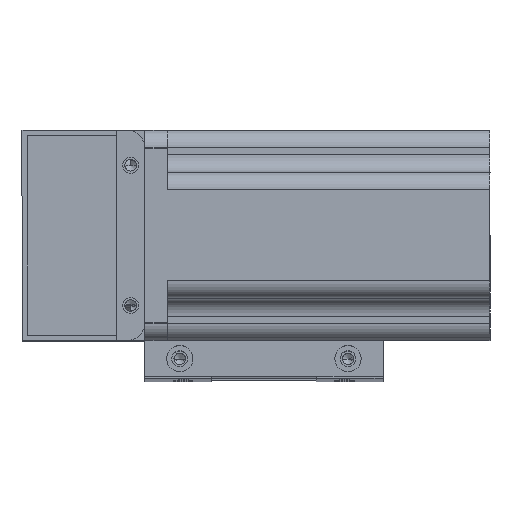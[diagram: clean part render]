
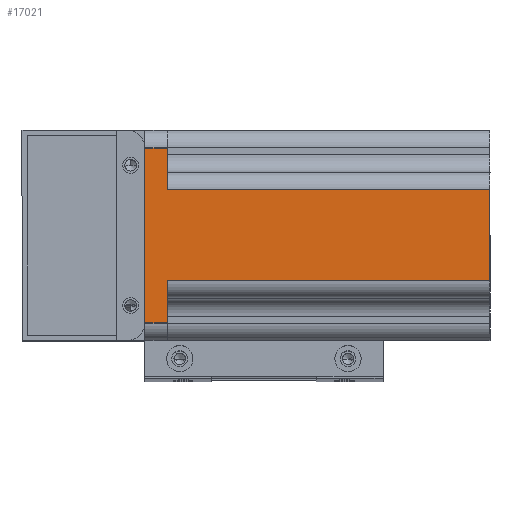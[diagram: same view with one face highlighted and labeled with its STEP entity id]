
A CAD part, top view. The second image highlights one B-rep face of the part: STEP entity #17021.
In plain terms, the highlighted planar face has unit normal (0, 0, 1) as drawn and (-1, 0, 0) by its records, which use the part's own axes.
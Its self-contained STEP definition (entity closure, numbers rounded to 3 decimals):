
#560 = CARTESIAN_POINT ( 'NONE',  ( -30., 13., 0. ) ) ;
#1712 = ORIENTED_EDGE ( 'NONE', *, *, #14572, .F. ) ;
#1823 = ORIENTED_EDGE ( 'NONE', *, *, #12443, .T. ) ;
#1884 = EDGE_CURVE ( 'NONE', #13013, #25245, #14892, .T. ) ;
#2678 = ORIENTED_EDGE ( 'NONE', *, *, #1884, .F. ) ;
#4320 = CARTESIAN_POINT ( 'NONE',  ( -30., -18., -92. ) ) ;
#4623 = CARTESIAN_POINT ( 'NONE',  ( -30., 25., 6.5 ) ) ;
#4807 = CARTESIAN_POINT ( 'NONE',  ( -30., -13., 6.5 ) ) ;
#5342 = VECTOR ( 'NONE', #23410, 1000. ) ;
#5466 = EDGE_CURVE ( 'NONE', #13013, #16878, #13578, .T. ) ;
#5576 = DIRECTION ( 'NONE',  ( 0., -1., 0. ) ) ;
#5598 = CARTESIAN_POINT ( 'NONE',  ( -30., -25., 6.5 ) ) ;
#5898 = FACE_OUTER_BOUND ( 'NONE', #22247, .T. ) ;
#6604 = LINE ( 'NONE', #4320, #13997 ) ;
#7828 = VECTOR ( 'NONE', #26149, 1000. ) ;
#8292 = CARTESIAN_POINT ( 'NONE',  ( -30., -25., 0. ) ) ;
#8390 = CARTESIAN_POINT ( 'NONE',  ( -30., 13., 6.5 ) ) ;
#9241 = VERTEX_POINT ( 'NONE', #24689 ) ;
#9345 = CARTESIAN_POINT ( 'NONE',  ( -30., -13., -92. ) ) ;
#10753 = EDGE_CURVE ( 'NONE', #16878, #27787, #25834, .T. ) ;
#10977 = ORIENTED_EDGE ( 'NONE', *, *, #27935, .T. ) ;
#11249 = CARTESIAN_POINT ( 'NONE',  ( -30., -25., 0. ) ) ;
#11871 = EDGE_CURVE ( 'NONE', #18794, #20929, #26776, .T. ) ;
#12221 = VECTOR ( 'NONE', #26610, 1000. ) ;
#12276 = VECTOR ( 'NONE', #5576, 1000. ) ;
#12443 = EDGE_CURVE ( 'NONE', #27787, #9241, #14919, .T. ) ;
#13013 = VERTEX_POINT ( 'NONE', #20641 ) ;
#13578 = LINE ( 'NONE', #4623, #7828 ) ;
#13997 = VECTOR ( 'NONE', #19428, 1000. ) ;
#14572 = EDGE_CURVE ( 'NONE', #18794, #9241, #6604, .T. ) ;
#14892 = LINE ( 'NONE', #5598, #15242 ) ;
#14919 = LINE ( 'NONE', #8390, #22352 ) ;
#15242 = VECTOR ( 'NONE', #22563, 1000. ) ;
#15691 = VECTOR ( 'NONE', #21947, 1000. ) ;
#16802 = LINE ( 'NONE', #21321, #5342 ) ;
#16878 = VERTEX_POINT ( 'NONE', #24934 ) ;
#17021 = ADVANCED_FACE ( 'NONE', ( #5898 ), #18615, .F. ) ;
#17063 = ORIENTED_EDGE ( 'NONE', *, *, #5466, .T. ) ;
#18615 = PLANE ( 'NONE',  #22672 ) ;
#18794 = VERTEX_POINT ( 'NONE', #9345 ) ;
#18814 = DIRECTION ( 'NONE',  ( 0., 0., -1. ) ) ;
#19118 = ORIENTED_EDGE ( 'NONE', *, *, #25761, .F. ) ;
#19394 = VERTEX_POINT ( 'NONE', #8292 ) ;
#19428 = DIRECTION ( 'NONE',  ( 0., 1., 0. ) ) ;
#20641 = CARTESIAN_POINT ( 'NONE',  ( -30., 25., 6.5 ) ) ;
#20929 = VERTEX_POINT ( 'NONE', #25963 ) ;
#21321 = CARTESIAN_POINT ( 'NONE',  ( -30., -25., 6.5 ) ) ;
#21374 = DIRECTION ( 'NONE',  ( 0., 0., -1. ) ) ;
#21947 = DIRECTION ( 'NONE',  ( 0., -1., 0. ) ) ;
#22247 = EDGE_LOOP ( 'NONE', ( #1712, #25649, #10977, #19118, #2678, #17063, #23305, #1823 ) ) ;
#22352 = VECTOR ( 'NONE', #21374, 1000. ) ;
#22563 = DIRECTION ( 'NONE',  ( 0., -1., 0. ) ) ;
#22672 = AXIS2_PLACEMENT_3D ( 'NONE', #27408, #27231, #18814 ) ;
#23305 = ORIENTED_EDGE ( 'NONE', *, *, #10753, .T. ) ;
#23410 = DIRECTION ( 'NONE',  ( 0., 0., -1. ) ) ;
#24688 = CARTESIAN_POINT ( 'NONE',  ( -30., -25., 0. ) ) ;
#24689 = CARTESIAN_POINT ( 'NONE',  ( -30., 13., -92. ) ) ;
#24934 = CARTESIAN_POINT ( 'NONE',  ( -30., 25., 0. ) ) ;
#25245 = VERTEX_POINT ( 'NONE', #25960 ) ;
#25649 = ORIENTED_EDGE ( 'NONE', *, *, #11871, .T. ) ;
#25761 = EDGE_CURVE ( 'NONE', #25245, #19394, #16802, .T. ) ;
#25834 = LINE ( 'NONE', #11249, #15691 ) ;
#25960 = CARTESIAN_POINT ( 'NONE',  ( -30., -25., 6.5 ) ) ;
#25963 = CARTESIAN_POINT ( 'NONE',  ( -30., -13., 0. ) ) ;
#26149 = DIRECTION ( 'NONE',  ( 0., 0., -1. ) ) ;
#26610 = DIRECTION ( 'NONE',  ( 0., 0., 1. ) ) ;
#26776 = LINE ( 'NONE', #4807, #12221 ) ;
#27231 = DIRECTION ( 'NONE',  ( 1., 0., 0. ) ) ;
#27408 = CARTESIAN_POINT ( 'NONE',  ( -30., -25., 6.5 ) ) ;
#27525 = LINE ( 'NONE', #24688, #12276 ) ;
#27787 = VERTEX_POINT ( 'NONE', #560 ) ;
#27935 = EDGE_CURVE ( 'NONE', #20929, #19394, #27525, .T. ) ;
